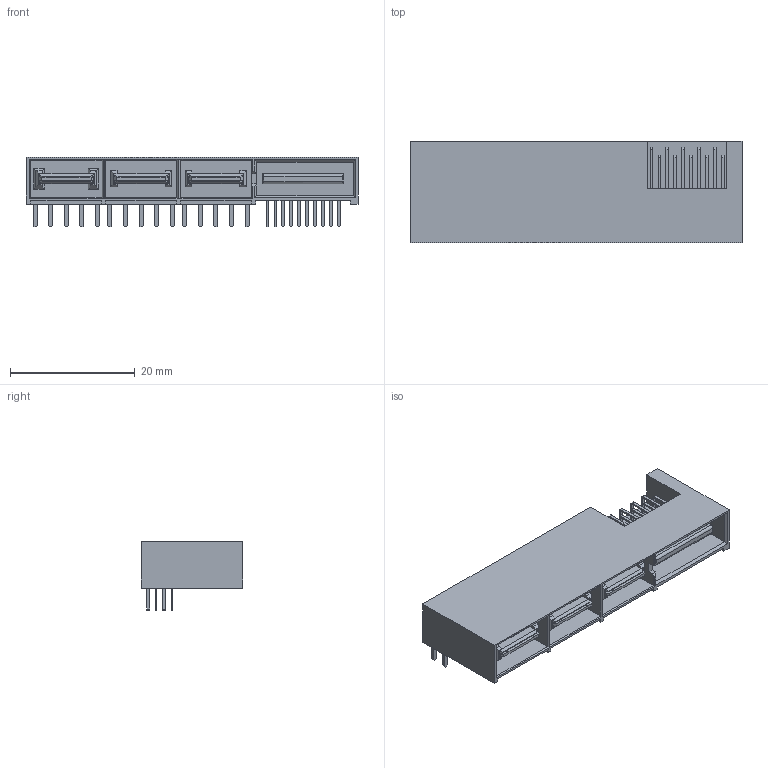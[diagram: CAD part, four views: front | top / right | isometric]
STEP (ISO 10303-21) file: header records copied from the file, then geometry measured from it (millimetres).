
FILE_DESCRIPTION((''),'2;1');
FILE_NAME('459856132','2020-10-29T',('me'),(''),'PRO/ENGINEER BY PARAMETRIC TECHNOLOGY CORPORATION, 2016010','PRO/ENGINEER BY PARAMETRIC TECHNOLOGY CORPORATION, 2016010','');
FILE_SCHEMA(('CONFIG_CONTROL_DESIGN'));
Length unit declared in the file: millimetre
Products named in the file (1): 459856132
Bounding box: 53.24 x 16.28 x 11.09 mm (x, y, z)
Volume: 3687.7 mm3; surface area: 6655.9 mm2
Topology: 1 solids, 1 shells, 1049 faces, 3070 edges, 2086 vertices
Faces by surface type: plane 907, cylinder 142
Entity records: 34637 total; most frequent: CARTESIAN_POINT 6902, ORIENTED_EDGE 5940, DIRECTION 5210, EDGE_CURVE 2970, VECTOR 2502, LINE 2502, VERTEX_POINT 1986, AXIS2_PLACEMENT_3D 1354
